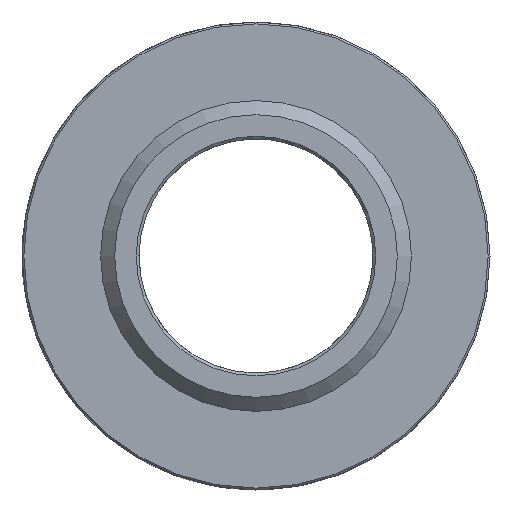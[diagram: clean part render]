
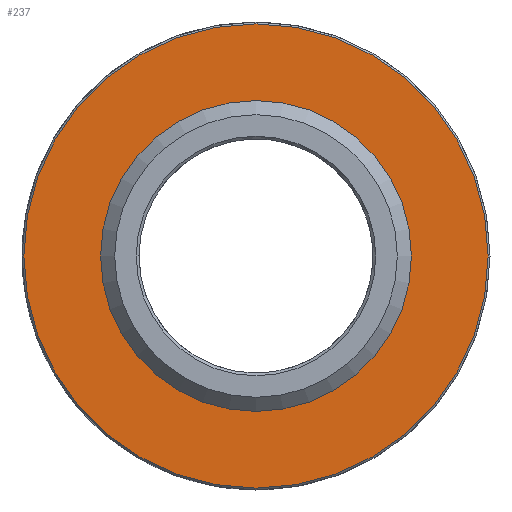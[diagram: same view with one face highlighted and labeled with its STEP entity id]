
A CAD part, front view. The second image highlights one B-rep face of the part: STEP entity #237.
In plain terms, the highlighted planar face has unit normal (0, -1, 0).
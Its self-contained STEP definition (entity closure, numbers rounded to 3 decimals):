
#14=FACE_BOUND('',#44,.T.);
#17=PLANE('',#279);
#30=FACE_OUTER_BOUND('',#43,.T.);
#43=EDGE_LOOP('',(#174));
#44=EDGE_LOOP('',(#175,#176));
#75=CIRCLE('',#267,15.);
#76=CIRCLE('',#268,15.);
#84=CIRCLE('',#280,24.8);
#97=VERTEX_POINT('',#385);
#98=VERTEX_POINT('',#386);
#106=VERTEX_POINT('',#411);
#119=EDGE_CURVE('',#97,#98,#75,.T.);
#120=EDGE_CURVE('',#98,#97,#76,.T.);
#132=EDGE_CURVE('',#106,#106,#84,.T.);
#174=ORIENTED_EDGE('',*,*,#132,.F.);
#175=ORIENTED_EDGE('',*,*,#119,.T.);
#176=ORIENTED_EDGE('',*,*,#120,.T.);
#237=ADVANCED_FACE('',(#30,#14),#17,.T.);
#267=AXIS2_PLACEMENT_3D('',#387,#305,#306);
#268=AXIS2_PLACEMENT_3D('',#388,#307,#308);
#279=AXIS2_PLACEMENT_3D('',#410,#333,#334);
#280=AXIS2_PLACEMENT_3D('',#412,#335,#336);
#305=DIRECTION('center_axis',(0.,1.,0.));
#306=DIRECTION('ref_axis',(1.,0.,0.));
#307=DIRECTION('center_axis',(0.,1.,0.));
#308=DIRECTION('ref_axis',(1.,0.,0.));
#333=DIRECTION('center_axis',(0.,-1.,0.));
#334=DIRECTION('ref_axis',(0.,0.,-1.));
#335=DIRECTION('center_axis',(0.,1.,0.));
#336=DIRECTION('ref_axis',(1.,0.,0.));
#385=CARTESIAN_POINT('',(-15.,14.,0.));
#386=CARTESIAN_POINT('',(15.,14.,0.));
#387=CARTESIAN_POINT('Origin',(0.,14.,0.));
#388=CARTESIAN_POINT('Origin',(0.,14.,0.));
#410=CARTESIAN_POINT('Origin',(-25.,14.,0.));
#411=CARTESIAN_POINT('',(-24.8,14.,0.));
#412=CARTESIAN_POINT('Origin',(0.,14.,0.));
